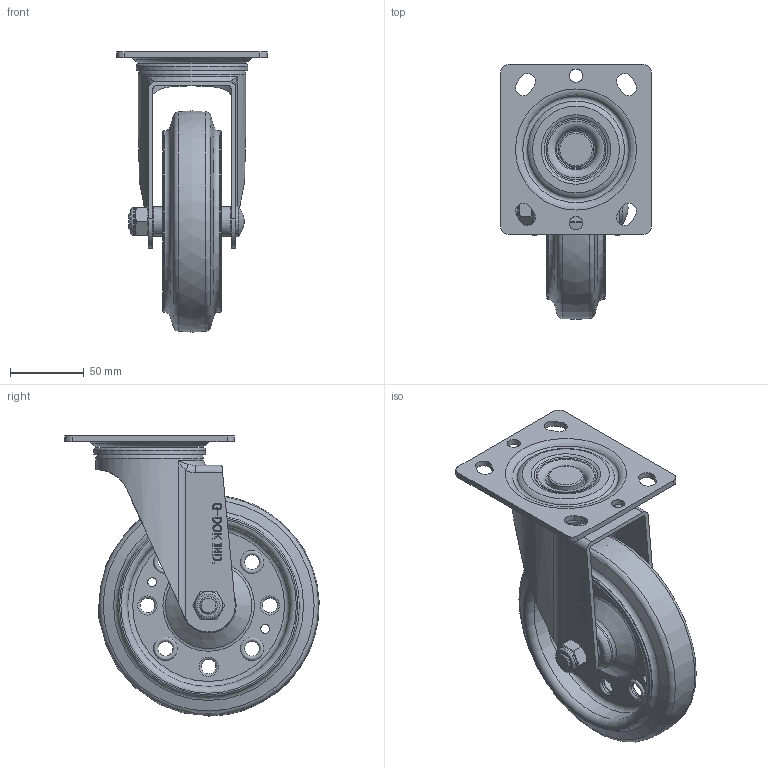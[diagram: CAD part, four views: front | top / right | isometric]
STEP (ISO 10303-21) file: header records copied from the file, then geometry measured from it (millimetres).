
FILE_DESCRIPTION(/* description */ (''),/* implementation_level */ '2;1');
FILE_NAME(/* name */ '\\Common1\d\1.기술연구소\1.\X2\C81CD488B3C4BA74C815B9AC\X0\\1.양산품\24.RT-SERIES-OK\RT-150\RT3\RT3-150 A SF-ASSY.stp',/* time_stamp */ '2015-03-16T18:24:35+09:00',/* author */ ('오창근'),/* organization */ (''),/* preprocessor_version */ 'ST-DEVELOPER v15.6',/* originating_system */ 'Autodesk Inventor 2015',/* authorisation */ '');
FILE_SCHEMA (('AUTOMOTIVE_DESIGN { 1 0 10303 214 3 1 1 }'));
Length unit declared in the file: centimetre
Products named in the file (1): RT3-150 A SF-ASSY
Bounding box: 102 x 172.46 x 190 mm (x, y, z)
Volume: 422181.7 mm3; surface area: 163032.5 mm2
Topology: 6 solids, 10 shells, 507 faces, 1242 edges, 792 vertices
Faces by surface type: plane 221, torus 99, bspline 86, cylinder 80, cone 20, sphere 1
Full cylindrical faces by diameter (mm): 6 x2, 9 x2, 10 x8, 12 x2, 12.2 x1, 14.8 x1, 14.9 x1, 15 x1, 15.1 x2, 18.5 x1, 20.2 x3, 21 x1, 23 x2, 24 x1, 24.4 x1, 26.6 x3, 32 x1, 35 x2, 36.549 x1, 54.5 x1, 67 x1, 73 x1, 74.4 x1, 75.8 x1, 110 x2, 123 x2
Entity records: 14428 total; most frequent: CARTESIAN_POINT 3544, ORIENTED_EDGE 2110, DIRECTION 2026, EDGE_CURVE 1055, VERTEX_POINT 765, EDGE_LOOP 762, AXIS2_PLACEMENT_3D 743, LINE 540
